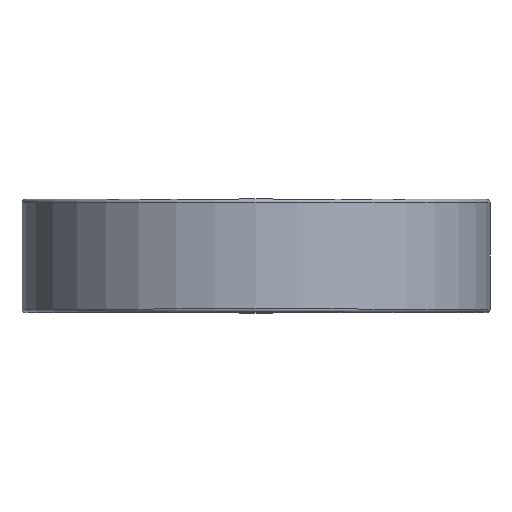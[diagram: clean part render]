
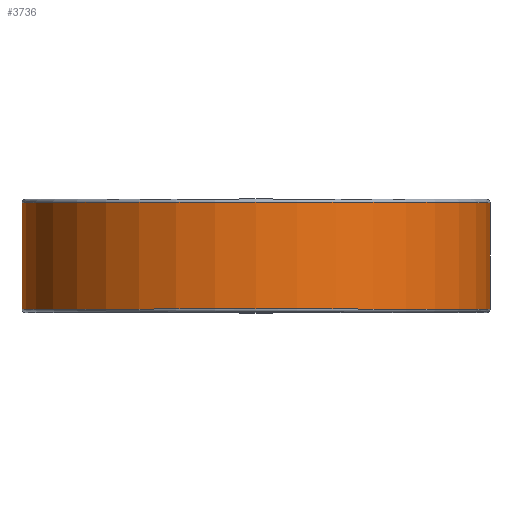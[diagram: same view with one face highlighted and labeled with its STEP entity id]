
A CAD part, top view. The second image highlights one B-rep face of the part: STEP entity #3736.
In plain terms, the highlighted cylindrical face has radius 72.35 mm (diameter 144.7 mm), a full revolution.
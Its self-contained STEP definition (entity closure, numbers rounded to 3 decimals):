
#54=CYLINDRICAL_SURFACE('',#3975,72.35);
#78=CIRCLE('',#3976,72.35);
#79=CIRCLE('',#3977,72.35);
#1137=ORIENTED_EDGE('',*,*,#2219,.T.);
#1138=ORIENTED_EDGE('',*,*,#2220,.T.);
#2219=EDGE_CURVE('',#2760,#2760,#78,.F.);
#2220=EDGE_CURVE('',#2761,#2761,#79,.T.);
#2760=VERTEX_POINT('',#5700);
#2761=VERTEX_POINT('',#5702);
#3066=EDGE_LOOP('',(#1137));
#3067=EDGE_LOOP('',(#1138));
#3327=FACE_BOUND('',#3066,.T.);
#3328=FACE_BOUND('',#3067,.T.);
#3736=ADVANCED_FACE('',(#3327,#3328),#54,.T.);
#3975=AXIS2_PLACEMENT_3D('',#5698,#4326,#4327);
#3976=AXIS2_PLACEMENT_3D('',#5699,#4328,#4329);
#3977=AXIS2_PLACEMENT_3D('',#5701,#4330,#4331);
#4326=DIRECTION('',(0.,1.,0.));
#4327=DIRECTION('',(0.,0.,1.));
#4328=DIRECTION('',(0.,1.,0.));
#4329=DIRECTION('',(0.,0.,1.));
#4330=DIRECTION('',(0.,1.,0.));
#4331=DIRECTION('',(0.,0.,1.));
#5698=CARTESIAN_POINT('',(0.,-17.5,0.));
#5699=CARTESIAN_POINT('',(0.,16.5,0.));
#5700=CARTESIAN_POINT('',(0.,16.5,72.35));
#5701=CARTESIAN_POINT('',(0.,-16.5,0.));
#5702=CARTESIAN_POINT('',(0.,-16.5,72.35));
